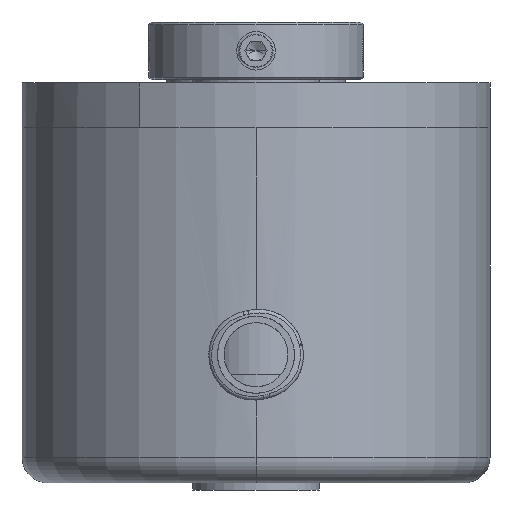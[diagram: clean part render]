
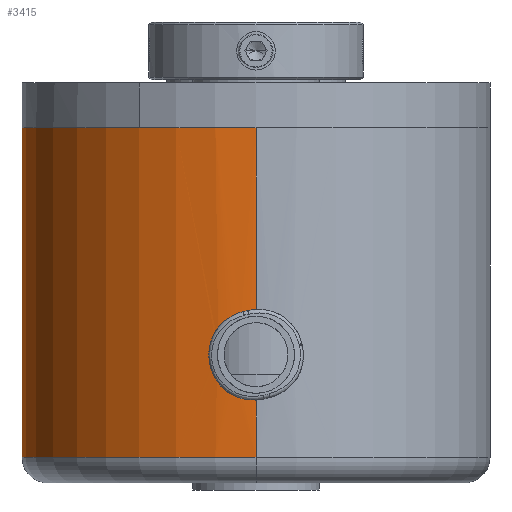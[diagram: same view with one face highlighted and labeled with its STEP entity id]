
A CAD part, front view. The second image highlights one B-rep face of the part: STEP entity #3415.
In plain terms, the highlighted cylindrical face has radius 18.25 mm (diameter 36.5 mm), a partial arc.
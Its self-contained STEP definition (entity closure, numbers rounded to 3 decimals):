
#525 = CARTESIAN_POINT ( 'NONE',  ( 0., 0., -3.5 ) ) ;
#527 = DIRECTION ( 'NONE',  ( 0., 0., -1. ) ) ;
#528 = DIRECTION ( 'NONE',  ( 0., 1., 0. ) ) ;
#963 = ORIENTED_EDGE ( 'NONE', *, *, #16305, .T. ) ;
#965 = ORIENTED_EDGE ( 'NONE', *, *, #16334, .T. ) ;
#968 = ORIENTED_EDGE ( 'NONE', *, *, #16315, .F. ) ;
#970 = ORIENTED_EDGE ( 'NONE', *, *, #16306, .T. ) ;
#972 = ORIENTED_EDGE ( 'NONE', *, *, #16314, .T. ) ;
#974 = ORIENTED_EDGE ( 'NONE', *, *, #16307, .F. ) ;
#978 = ORIENTED_EDGE ( 'NONE', *, *, #16317, .F. ) ;
#2576 = B_SPLINE_CURVE_WITH_KNOTS ( 'NONE', 3,
 ( #14732, #14733, #14734, #14735, #14736, #14737, #14738, #14739, #14740, #14741, #14742, #14743, #14744, #14745, #14746, #14747, #14748, #14749 ),
 .UNSPECIFIED., .F., .F.,
 ( 4, 2, 2, 2, 2, 2, 2, 2, 4 ),
 ( 0.005, 0.005, 0.006, 0.007, 0.007, 0.008, 0.008, 0.009, 0.01 ),
 .UNSPECIFIED. ) ;
#2586 = B_SPLINE_CURVE_WITH_KNOTS ( 'NONE', 3,
 ( #7946, #7947, #7948, #7949, #7950, #7951, #7952, #7953, #7954, #7955, #7956, #7957, #7958, #7959, #7960, #7961, #7962, #7963 ),
 .UNSPECIFIED., .F., .F.,
 ( 4, 2, 2, 2, 2, 2, 2, 2, 4 ),
 ( 0.01, 0.01, 0.011, 0.011, 0.012, 0.013, 0.013, 0.014, 0.014 ),
 .UNSPECIFIED. ) ;
#2937 = CYLINDRICAL_SURFACE ( 'NONE', #10605, 18.25 ) ;
#2943 = FACE_OUTER_BOUND ( 'NONE', #14001, .T. ) ;
#3415 = ADVANCED_FACE ( 'NONE', ( #2943 ), #2937, .T. ) ;
#4797 = AXIS2_PLACEMENT_3D ( 'NONE', #7964, #7965, #7966 ) ;
#4798 = AXIS2_PLACEMENT_3D ( 'NONE', #7967, #7968, #7969 ) ;
#7946 = CARTESIAN_POINT ( 'NONE',  ( -3.05, -17.993, -21.2 ) ) ;
#7947 = CARTESIAN_POINT ( 'NONE',  ( -3.05, -17.993, -21.001 ) ) ;
#7948 = CARTESIAN_POINT ( 'NONE',  ( -3.031, -17.997, -20.802 ) ) ;
#7949 = CARTESIAN_POINT ( 'NONE',  ( -2.952, -18.01, -20.408 ) ) ;
#7950 = CARTESIAN_POINT ( 'NONE',  ( -2.894, -18.019, -20.216 ) ) ;
#7951 = CARTESIAN_POINT ( 'NONE',  ( -2.741, -18.043, -19.849 ) ) ;
#7952 = CARTESIAN_POINT ( 'NONE',  ( -2.646, -18.057, -19.671 ) ) ;
#7953 = CARTESIAN_POINT ( 'NONE',  ( -2.424, -18.089, -19.338 ) ) ;
#7954 = CARTESIAN_POINT ( 'NONE',  ( -2.298, -18.105, -19.185 ) ) ;
#7955 = CARTESIAN_POINT ( 'NONE',  ( -2.017, -18.139, -18.903 ) ) ;
#7956 = CARTESIAN_POINT ( 'NONE',  ( -1.86, -18.156, -18.775 ) ) ;
#7957 = CARTESIAN_POINT ( 'NONE',  ( -1.529, -18.187, -18.554 ) ) ;
#7958 = CARTESIAN_POINT ( 'NONE',  ( -1.354, -18.201, -18.46 ) ) ;
#7959 = CARTESIAN_POINT ( 'NONE',  ( -0.984, -18.224, -18.306 ) ) ;
#7960 = CARTESIAN_POINT ( 'NONE',  ( -0.791, -18.234, -18.248 ) ) ;
#7961 = CARTESIAN_POINT ( 'NONE',  ( -0.401, -18.247, -18.17 ) ) ;
#7962 = CARTESIAN_POINT ( 'NONE',  ( -0.202, -18.25, -18.15 ) ) ;
#7963 = CARTESIAN_POINT ( 'NONE',  ( 0., -18.25, -18.15 ) ) ;
#7964 = CARTESIAN_POINT ( 'NONE',  ( 0., 0., -29.2 ) ) ;
#7965 = DIRECTION ( 'NONE',  ( 0., 0., 1. ) ) ;
#7966 = DIRECTION ( 'NONE',  ( 0., -1., 0. ) ) ;
#7967 = CARTESIAN_POINT ( 'NONE',  ( 0., 0., -3.5 ) ) ;
#7968 = DIRECTION ( 'NONE',  ( 0., 0., 1. ) ) ;
#7969 = DIRECTION ( 'NONE',  ( 0., -1., 0. ) ) ;
#7986 = CARTESIAN_POINT ( 'NONE',  ( 0., 18.25, -3.5 ) ) ;
#7987 = DIRECTION ( 'NONE',  ( 0., 0., -1. ) ) ;
#7988 = CARTESIAN_POINT ( 'NONE',  ( 0., -18.25, -3.5 ) ) ;
#7989 = DIRECTION ( 'NONE',  ( 0., 0., -1. ) ) ;
#8006 = CARTESIAN_POINT ( 'NONE',  ( 0., -18.25, -3.5 ) ) ;
#8007 = DIRECTION ( 'NONE',  ( 0., 0., -1. ) ) ;
#8185 = CARTESIAN_POINT ( 'NONE',  ( 0., -18.25, -3.5 ) ) ;
#8225 = CARTESIAN_POINT ( 'NONE',  ( 0., -18.25, -24.25 ) ) ;
#8234 = CARTESIAN_POINT ( 'NONE',  ( 0., -18.25, -18.15 ) ) ;
#8262 = CARTESIAN_POINT ( 'NONE',  ( 0., 18.25, -3.5 ) ) ;
#8322 = CARTESIAN_POINT ( 'NONE',  ( -3.05, -17.993, -21.2 ) ) ;
#8505 = CARTESIAN_POINT ( 'NONE',  ( 0., 18.25, -29.2 ) ) ;
#8516 = CARTESIAN_POINT ( 'NONE',  ( 0., -18.25, -29.2 ) ) ;
#9034 = VERTEX_POINT ( 'NONE', #8185 ) ;
#9181 = VERTEX_POINT ( 'NONE', #8225 ) ;
#9197 = VERTEX_POINT ( 'NONE', #8234 ) ;
#9247 = VERTEX_POINT ( 'NONE', #8262 ) ;
#9637 = VERTEX_POINT ( 'NONE', #8322 ) ;
#10605 = AXIS2_PLACEMENT_3D ( 'NONE', #525, #527, #528 ) ;
#13530 = VERTEX_POINT ( 'NONE', #8505 ) ;
#13541 = VERTEX_POINT ( 'NONE', #8516 ) ;
#14001 = EDGE_LOOP ( 'NONE', ( #978, #974, #972, #970, #968, #965, #963 ) ) ;
#14732 = CARTESIAN_POINT ( 'NONE',  ( 0., -18.25, -24.25 ) ) ;
#14733 = CARTESIAN_POINT ( 'NONE',  ( -0.199, -18.25, -24.25 ) ) ;
#14734 = CARTESIAN_POINT ( 'NONE',  ( -0.402, -18.247, -24.23 ) ) ;
#14735 = CARTESIAN_POINT ( 'NONE',  ( -0.793, -18.234, -24.152 ) ) ;
#14736 = CARTESIAN_POINT ( 'NONE',  ( -0.983, -18.224, -24.094 ) ) ;
#14737 = CARTESIAN_POINT ( 'NONE',  ( -1.353, -18.201, -23.941 ) ) ;
#14738 = CARTESIAN_POINT ( 'NONE',  ( -1.531, -18.186, -23.845 ) ) ;
#14739 = CARTESIAN_POINT ( 'NONE',  ( -1.861, -18.156, -23.625 ) ) ;
#14740 = CARTESIAN_POINT ( 'NONE',  ( -2.015, -18.139, -23.498 ) ) ;
#14741 = CARTESIAN_POINT ( 'NONE',  ( -2.299, -18.105, -23.214 ) ) ;
#14742 = CARTESIAN_POINT ( 'NONE',  ( -2.425, -18.089, -23.061 ) ) ;
#14743 = CARTESIAN_POINT ( 'NONE',  ( -2.646, -18.058, -22.731 ) ) ;
#14744 = CARTESIAN_POINT ( 'NONE',  ( -2.741, -18.043, -22.552 ) ) ;
#14745 = CARTESIAN_POINT ( 'NONE',  ( -2.894, -18.019, -22.183 ) ) ;
#14746 = CARTESIAN_POINT ( 'NONE',  ( -2.952, -18.01, -21.993 ) ) ;
#14747 = CARTESIAN_POINT ( 'NONE',  ( -3.03, -17.997, -21.602 ) ) ;
#14748 = CARTESIAN_POINT ( 'NONE',  ( -3.05, -17.993, -21.399 ) ) ;
#14749 = CARTESIAN_POINT ( 'NONE',  ( -3.05, -17.993, -21.2 ) ) ;
#15770 = CIRCLE ( 'NONE', #4797, 18.25 ) ;
#15771 = CIRCLE ( 'NONE', #4798, 18.25 ) ;
#15779 = LINE ( 'NONE', #7986, #15781 ) ;
#15781 = VECTOR ( 'NONE', #7987, 1000. ) ;
#15782 = LINE ( 'NONE', #7988, #15783 ) ;
#15783 = VECTOR ( 'NONE', #7989, 1000. ) ;
#15784 = LINE ( 'NONE', #8006, #15785 ) ;
#15785 = VECTOR ( 'NONE', #8007, 1000. ) ;
#16305 = EDGE_CURVE ( 'NONE', #9637, #9197, #2586, .T. ) ;
#16306 = EDGE_CURVE ( 'NONE', #13530, #13541, #15770, .T. ) ;
#16307 = EDGE_CURVE ( 'NONE', #9247, #9034, #15771, .T. ) ;
#16314 = EDGE_CURVE ( 'NONE', #9247, #13530, #15779, .T. ) ;
#16315 = EDGE_CURVE ( 'NONE', #9181, #13541, #15782, .T. ) ;
#16317 = EDGE_CURVE ( 'NONE', #9034, #9197, #15784, .T. ) ;
#16334 = EDGE_CURVE ( 'NONE', #9181, #9637, #2576, .T. ) ;
